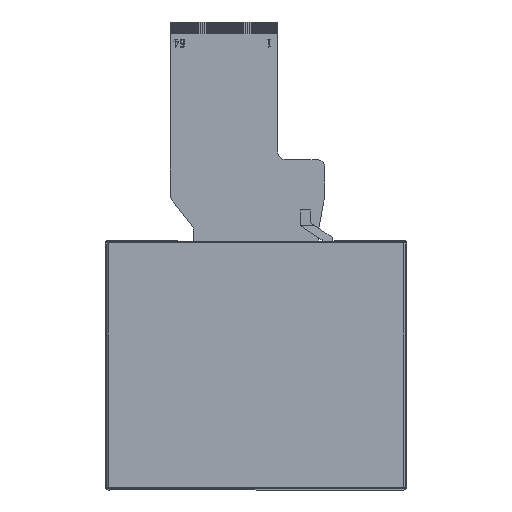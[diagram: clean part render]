
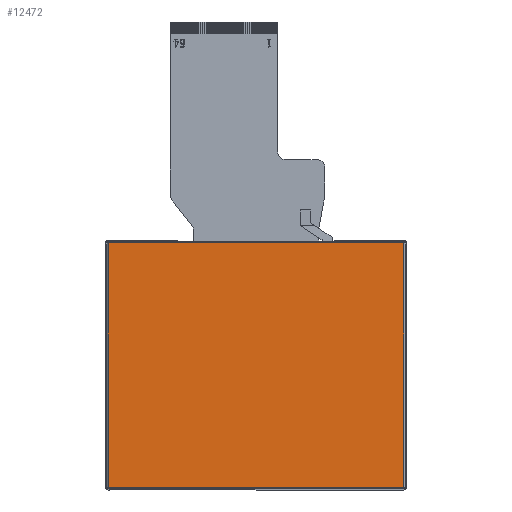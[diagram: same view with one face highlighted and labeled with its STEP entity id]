
A CAD part, front view. The second image highlights one B-rep face of the part: STEP entity #12472.
In plain terms, the highlighted planar face has unit normal (0, -1, 0).
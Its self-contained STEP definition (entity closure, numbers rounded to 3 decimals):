
#568 = CARTESIAN_POINT ( 'NONE',  ( -37.72, -3.27, -31.22 ) ) ;
#2148 = VECTOR ( 'NONE', #35246, 1000. ) ;
#2451 = LINE ( 'NONE', #17391, #25931 ) ;
#4535 = VECTOR ( 'NONE', #16141, 1000. ) ;
#5151 = VERTEX_POINT ( 'NONE', #42165 ) ;
#6798 = LINE ( 'NONE', #12434, #35957 ) ;
#7079 = FACE_OUTER_BOUND ( 'NONE', #11926, .T. ) ;
#9275 = EDGE_CURVE ( 'NONE', #5151, #29352, #6798, .T. ) ;
#11926 = EDGE_LOOP ( 'NONE', ( #30812, #33499, #44740, #38644 ) ) ;
#12434 = CARTESIAN_POINT ( 'NONE',  ( 37.72, -3.27, -31.22 ) ) ;
#12472 = ADVANCED_FACE ( 'NONE', ( #7079 ), #14289, .F. ) ;
#14289 = PLANE ( 'NONE',  #20609 ) ;
#14882 = EDGE_CURVE ( 'NONE', #27260, #39630, #2451, .T. ) ;
#16141 = DIRECTION ( 'NONE',  ( -1., 0., 0. ) ) ;
#17391 = CARTESIAN_POINT ( 'NONE',  ( -37.72, -3.27, -31.22 ) ) ;
#19549 = CARTESIAN_POINT ( 'NONE',  ( 37.72, -3.27, -31.22 ) ) ;
#20609 = AXIS2_PLACEMENT_3D ( 'NONE', #41490, #45563, #37406 ) ;
#25931 = VECTOR ( 'NONE', #45291, 1000. ) ;
#27260 = VERTEX_POINT ( 'NONE', #31732 ) ;
#29352 = VERTEX_POINT ( 'NONE', #32356 ) ;
#30812 = ORIENTED_EDGE ( 'NONE', *, *, #48864, .T. ) ;
#31358 = CARTESIAN_POINT ( 'NONE',  ( 37.72, -3.27, 31.22 ) ) ;
#31732 = CARTESIAN_POINT ( 'NONE',  ( -37.72, -3.27, 31.22 ) ) ;
#31778 = DIRECTION ( 'NONE',  ( 0., 0., 1. ) ) ;
#32356 = CARTESIAN_POINT ( 'NONE',  ( 37.72, -3.27, 31.22 ) ) ;
#33499 = ORIENTED_EDGE ( 'NONE', *, *, #14882, .T. ) ;
#35246 = DIRECTION ( 'NONE',  ( 1., 0., 0. ) ) ;
#35957 = VECTOR ( 'NONE', #31778, 1000. ) ;
#37406 = DIRECTION ( 'NONE',  ( 0., 0., 1. ) ) ;
#38644 = ORIENTED_EDGE ( 'NONE', *, *, #9275, .T. ) ;
#39630 = VERTEX_POINT ( 'NONE', #568 ) ;
#41490 = CARTESIAN_POINT ( 'NONE',  ( 37.72, -3.27, -31.22 ) ) ;
#42165 = CARTESIAN_POINT ( 'NONE',  ( 37.72, -3.27, -31.22 ) ) ;
#43082 = LINE ( 'NONE', #19549, #2148 ) ;
#43277 = LINE ( 'NONE', #31358, #4535 ) ;
#44740 = ORIENTED_EDGE ( 'NONE', *, *, #49569, .T. ) ;
#45291 = DIRECTION ( 'NONE',  ( 0., 0., -1. ) ) ;
#45563 = DIRECTION ( 'NONE',  ( 0., 1., 0. ) ) ;
#48864 = EDGE_CURVE ( 'NONE', #29352, #27260, #43277, .T. ) ;
#49569 = EDGE_CURVE ( 'NONE', #39630, #5151, #43082, .T. ) ;
